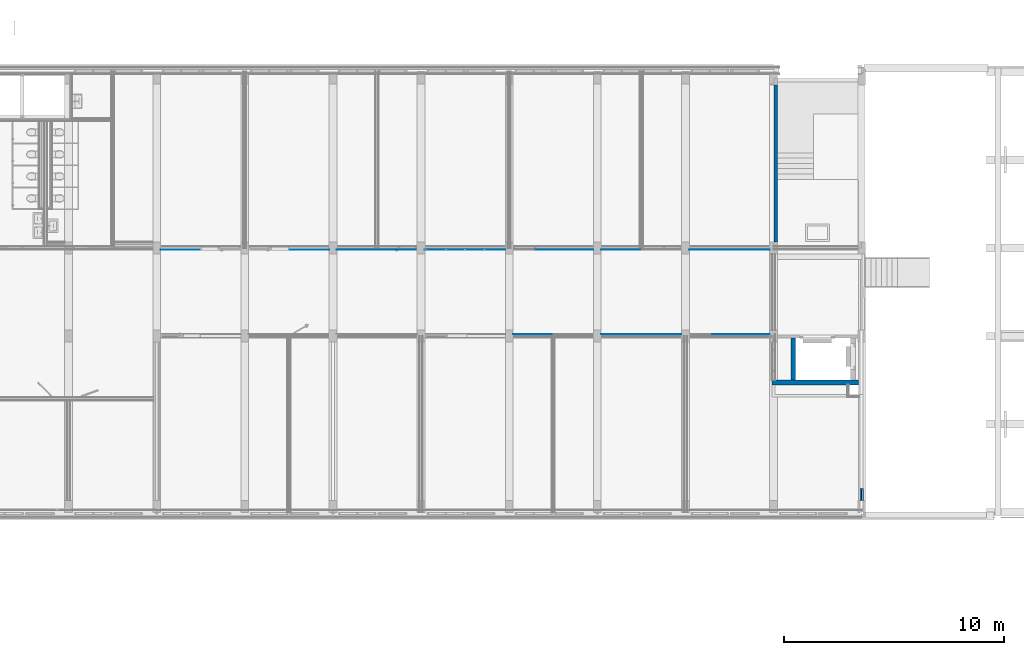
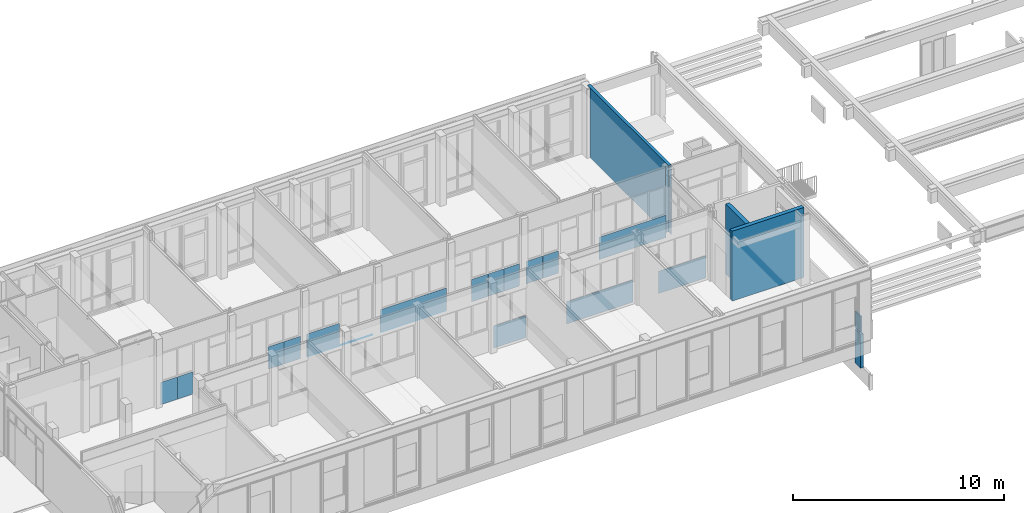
# One storey, part 16 of 54: 21 walls, 1 opening.
"""IFC2X3 building model written with IfcOpenShell, lengths in millimetres."""

from ifc_helpers import new_model, entity, si_unit, converted_unit, derived_unit, money_unit, direction, frame, origin_with_axes, place, context, subcontext, project, spatial, open_shell, faceted_brep, surface_model, material, type_object, element, save


model = new_model("IFC2X3")

# Units and contexts
model_context = context("Model", 3, precision=0.01, world=origin_with_axes(), true_north=direction((0.0, 1.0)))
body_context = subcontext(model_context, "Body", "Model", "MODEL_VIEW")
ifc_project = project(units=[si_unit("LENGTHUNIT", "METRE", prefix="MILLI"), si_unit("AREAUNIT", "SQUARE_METRE"), si_unit("VOLUMEUNIT", "CUBIC_METRE"), converted_unit("PLANEANGLEUNIT", "DEGREE", entity("IfcPlaneAngleMeasure", 0.0174532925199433), si_unit("PLANEANGLEUNIT", "RADIAN"), dimensions=[0, 0, 0, 0, 0, 0, 0]), money_unit("EUR"), converted_unit("TIMEUNIT", "Year", entity("IfcTimeMeasure", 31557600.0), si_unit("TIMEUNIT", "SECOND"), dimensions=[0, 0, 1, 0, 0, 0, 0]), si_unit("MASSUNIT", "GRAM", prefix="KILO"), si_unit("THERMODYNAMICTEMPERATUREUNIT", "DEGREE_CELSIUS"), si_unit("LUMINOUSINTENSITYUNIT", "LUMEN"), si_unit("ENERGYUNIT", "JOULE", prefix="MEGA"), derived_unit("THERMALCONDUCTANCEUNIT", [(si_unit("POWERUNIT", "WATT"), 1), (si_unit("LENGTHUNIT", "METRE"), -1), (si_unit("THERMODYNAMICTEMPERATUREUNIT", "KELVIN"), -1)]), derived_unit("SPECIFICHEATCAPACITYUNIT", [(si_unit("ENERGYUNIT", "JOULE"), 1), (si_unit("MASSUNIT", "GRAM", prefix="KILO"), -1), (si_unit("THERMODYNAMICTEMPERATUREUNIT", "KELVIN"), -1)]), derived_unit("MASSDENSITYUNIT", [(si_unit("MASSUNIT", "GRAM", prefix="KILO"), 1), (si_unit("VOLUMEUNIT", "CUBIC_METRE"), -1)])], contexts=[model_context])

# Site, building, storey
site_placement = place(None, origin_with_axes())
site = spatial("IfcSite", under=ifc_project, at=site_placement, Name="<site naam>", CompositionType="ELEMENT")
building_placement = place(site_placement, origin_with_axes())
building = spatial("IfcBuilding", under=site, at=building_placement, Name="<Naam gebouw>", CompositionType="ELEMENT")
storey_placement = place(building_placement, frame((0.0, 0.0, 8500.0), z_axis=(0.0, 0.0, 1.0), x_axis=(1.0, 0.0, 0.0)))
storey = spatial("IfcBuildingStorey", under=building, at=storey_placement, Name="02 2e verdieping", CompositionType="ELEMENT", Elevation=8500.0)

# Wall
ifc_material_1 = material(Name="beton_gewapend C")
wall_type_1 = type_object("IfcWallType", Name="beton 160 160", PredefinedType="NOTDEFINED")
wall_1_placement = place(storey_placement, frame((48015.07785426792, 19685.91067811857, 0.0), z_axis=(0.0, 0.0, 1.0), x_axis=(0.0, -1.0, 0.0)))
element("IfcWall", 1, at=wall_1_placement, inside=storey, type_object=wall_type_1, material=ifc_material_1, Name="22_Binnenwand_beton", context=body_context, shape_type="Brep", body=[
    faceted_brep([(7685.910678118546, 159.9221457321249, 0.0), (7410.910678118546, 159.9221457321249, 0.0), (7410.910678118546, 0.0, 0.0), (274.9999999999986, 0.0, 0.0), (274.9999999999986, 159.9221457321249, 0.0), (0.0, 159.9221457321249, 0.0), (0.0, 159.9999999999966, 0.0), (7685.910678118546, 159.9999999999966, 0.0), (7410.910678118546, 159.9221457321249, 3990.0), (7685.910678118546, 159.9221457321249, 3990.0), (7410.910678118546, 0.0, 3990.0), (7685.910678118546, 0.0, 3990.0), (7685.910678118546, 0.0, 4050.000014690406), (0.0, 0.0, 4050.000014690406), (0.0, 0.0, 3990.0), (274.9999999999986, 0.0, 3990.0), (274.9999999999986, 159.9221457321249, 3990.0), (0.0, 159.9221457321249, 3990.0), (0.0, 160.0000000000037, 4050.000014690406), (7685.910678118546, 159.9999999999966, 4050.000014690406)], [[[0, 1, 2, 3, 4, 5, 6, 7]], [[8, 1, 0, 9]], [[10, 2, 1, 8]], [[2, 10, 11, 12, 13, 14, 15, 3]], [[16, 4, 3, 15]], [[16, 17, 5, 4]], [[5, 17, 14, 13, 18, 6]], [[19, 7, 6, 18]], [[11, 9, 0, 7, 19, 12]], [[8, 9, 11, 10]], [[18, 13, 12, 19]], [[15, 14, 17, 16]]]),
])

# Wall, opening
wall_2_placement = place(storey_placement, frame((52000.00000000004, 1080.585761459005, -2105.0), z_axis=(0.0, 0.0, 1.0), x_axis=(0.0, -1.0, 0.0)))
wall_2 = element("IfcWall", 2, at=wall_2_placement, inside=storey, type_object=wall_type_1, material=ifc_material_1, Name="22_Binnenwand_beton", context=body_context, shape_type="Brep", body=[
    faceted_brep([(530.5857614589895, -79.9999999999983, 2987.500000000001), (530.5857614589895, -4.999999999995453, 2987.500000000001), (0.0, -4.999999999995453, 2987.500000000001), (0.0, -79.9999999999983, 2987.500000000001), (530.5857614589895, -79.9999999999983, 2075.000000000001), (530.5857614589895, -4.999999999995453, 2075.0000075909), (0.0, -4.999999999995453, 2075.000007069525), (0.0, -79.9999999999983, 2075.000000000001)], [[[0, 1, 2, 3]], [[4, 5, 1, 0]], [[5, 6, 2, 1]], [[3, 2, 6, 7]], [[0, 3, 7, 4]], [[7, 6, 5, 4]]]),
    faceted_brep([(0.0, -79.9999999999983, 0.0), (0.0, -79.9999999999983, 1955.000000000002), (0.0, 79.9999999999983, 1955.000000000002), (0.0, 79.9999999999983, 0.0), (530.5857614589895, -79.9999999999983, 0.0), (530.5857614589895, -79.9999999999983, 1955.000000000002), (530.5857614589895, 79.9999999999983, 1955.000000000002), (530.5857614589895, 79.9999999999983, 0.0)], [[[0, 1, 2, 3]], [[4, 5, 1, 0]], [[5, 6, 2, 1]], [[3, 2, 6, 7]], [[0, 3, 7, 4]], [[7, 6, 5, 4]]]),
])
opening_placement = place(wall_2_placement, frame((-6044.414244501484, 0.0, 0.0), z_axis=(0.0, 0.0, 1.0), x_axis=(1.0, 0.0, 0.0)))
element("IfcOpeningElement", 3, at=opening_placement, cuts=wall_2, Name="22_39-Gx_305", context=body_context, shape_type="Brep", body=[
    faceted_brep([(-599.9999999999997, -80.99999999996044, 2100.0), (-599.9999999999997, -80.99999999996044, 0.0), (599.9999999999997, -80.99999999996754, 0.0), (599.9999999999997, -80.99999999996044, 2100.0), (-599.9999999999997, 81.0000000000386, 2100.0), (-599.9999999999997, 81.0000000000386, 0.0), (599.9999999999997, 81.00000000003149, 0.0), (599.9999999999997, 81.0000000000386, 2100.0)], [[[0, 1, 2, 3]], [[4, 5, 1, 0]], [[5, 6, 2, 1]], [[6, 7, 3, 2]], [[7, 4, 0, 3]], [[6, 5, 4, 7]]]),
])

# Walls
ifc_material_2 = material(Name="kalkzandsteen")
wall_type_2 = type_object("IfcWallType", Name="kalkzandsteen 214", PredefinedType="NOTDEFINED")
wall_3_placement = place(storey_placement, frame((49000.00000000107, 6004.99999853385, 0.0), z_axis=(0.0, 0.0, 1.0), x_axis=(0.0, 1.0, 0.0)))
element("IfcWall", 4, at=wall_3_placement, inside=storey, type_object=wall_type_2, material=ifc_material_2, Name="22_Binnenwand_kalkzandsteen", context=body_context, shape_type="Brep", body=[
    faceted_brep([(1900.0, 0.0, 4049.999999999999), (1900.0, 213.9999999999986, 4049.999999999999), (0.0, 213.9999999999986, 4049.999999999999), (0.0, 0.0, 4049.999999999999), (1900.0, 0.0, 0.0), (1900.0, 213.9999999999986, 0.0), (0.0, 213.9999999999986, 0.0), (0.0, 0.0, 0.0)], [[[0, 1, 2, 3]], [[1, 0, 4, 5]], [[1, 5, 6, 2]], [[7, 3, 2, 6]], [[4, 0, 3, 7]], [[5, 4, 7, 6]]]),
])
wall_4_placement = place(storey_placement, frame((48000.00000000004, 6004.99999853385, 0.0), z_axis=(0.0, 0.0, 1.0), x_axis=(1.0, 0.0, 0.0)))
element("IfcWall", 5, at=wall_4_placement, inside=storey, type_object=wall_type_2, material=ifc_material_2, Name="22_Binnenwand_kalkzandsteen", context=body_context, shape_type="Brep", body=[
    faceted_brep([(-75.00000000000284, -213.9999999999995, 4049.999999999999), (3864.999999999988, -213.9999999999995, 4049.999999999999), (3864.999999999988, 0.0, 4049.999999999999), (-75.00000000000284, 0.0, 4049.999999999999), (-75.00000000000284, -214.0000000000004, 0.0), (3864.999999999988, -213.9999999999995, 0.0), (3864.999999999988, 0.0, 0.0), (-75.00000000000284, 0.0, 0.0)], [[[0, 1, 2, 3]], [[4, 5, 1, 0]], [[2, 1, 5, 6]], [[3, 2, 6, 7]], [[4, 0, 3, 7]], [[7, 6, 5, 4]]]),
])
ifc_material_3 = material(Name="ALG - BUITENAFWERKING")
wall_type_3 = type_object("IfcWallType", Name="ALG - BUITENAFWERKING 10", PredefinedType="NOTDEFINED")
wall_5_placement = place(storey_placement, frame((32242.99996298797, 11925.00000000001, 3.000000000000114), z_axis=(0.0, 0.0, 1.0), x_axis=(1.0, 0.0, 0.0)))
element("IfcWall", 6, at=wall_5_placement, inside=storey, type_object=wall_type_3, material=ifc_material_3, Name="42_Binnenwand_ALG", context=body_context, shape_type="SurfaceModel", body=[
    surface_model("IfcShellBasedSurfaceModel", [(0.0, -9.999999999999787, 0.0), (3514.000000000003, -9.999999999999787, 0.0), (3514.000000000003, 0.0, 0.0), (0.0, 0.0, 0.0)], [open_shell([[[0, 1, 2, 3]]])]),
])
wall_6_placement = place(storey_placement, frame((40179.34597927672, 11915.00000000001, 4.999999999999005), z_axis=(0.0, 0.0, 1.0), x_axis=(1.0, 0.0, 0.0)))
element("IfcWall", 7, at=wall_6_placement, inside=storey, type_object=wall_type_3, material=ifc_material_3, Name="42_Binnenwand_ALG", context=body_context, shape_type="Brep", body=[
    faceted_brep([(0.0, 0.0, 1292.000000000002), (907.7890083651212, 0.0, 1292.000000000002), (907.7890083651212, 9.999999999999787, 1292.000000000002), (0.0, 9.999999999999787, 1292.000000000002), (0.0, 0.0, 0.0), (907.7890083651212, 0.0, 0.0), (907.7890083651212, 9.999999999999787, 0.0), (0.0, 9.999999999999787, 0.0)], [[[0, 1, 2, 3]], [[4, 5, 1, 0]], [[2, 1, 5, 6]], [[3, 2, 6, 7]], [[4, 0, 3, 7]], [[7, 6, 5, 4]]]),
])
wall_7_placement = place(storey_placement, frame((28242.99996298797, 11925.00000000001, 3.000000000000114), z_axis=(0.0, 0.0, 1.0), x_axis=(1.0, 0.0, 0.0)))
element("IfcWall", 8, at=wall_7_placement, inside=storey, type_object=wall_type_3, material=ifc_material_3, Name="42_Binnenwand_ALG", context=body_context, shape_type="SurfaceModel", body=[
    surface_model("IfcShellBasedSurfaceModel", [(0.0, -9.999999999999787, 0.0), (3514.000000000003, -9.999999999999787, 0.0), (3514.000000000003, 0.0, 0.0), (0.0, 0.0, 0.0)], [open_shell([[[0, 1, 2, 3]]])]),
])
wall_8_placement = place(storey_placement, frame((41091.13498764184, 11915.00000000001, 4.999999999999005), z_axis=(0.0, 0.0, 1.0), x_axis=(1.0, 0.0, 0.0)))
element("IfcWall", 9, at=wall_8_placement, inside=storey, type_object=wall_type_3, material=ifc_material_3, Name="42_Binnenwand_ALG", context=body_context, shape_type="Brep", body=[
    faceted_brep([(0.0, 0.0, 1292.000000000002), (850.0000000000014, 0.0, 1292.000000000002), (850.0000000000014, 9.999999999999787, 1292.000000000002), (0.0, 9.999999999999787, 1292.000000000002), (0.0, 0.0, 0.0), (850.0000000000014, 0.0, 0.0), (850.0000000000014, 9.999999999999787, 0.0), (0.0, 9.999999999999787, 0.0)], [[[0, 1, 2, 3]], [[4, 5, 1, 0]], [[2, 1, 5, 6]], [[3, 2, 6, 7]], [[4, 0, 3, 7]], [[7, 6, 5, 4]]]),
])
wall_9_placement = place(storey_placement, frame((44179.34597927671, 11915.00000000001, 4.999999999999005), z_axis=(0.0, 0.0, 1.0), x_axis=(1.0, 0.0, 0.0)))
element("IfcWall", 10, at=wall_9_placement, inside=storey, type_object=wall_type_3, material=ifc_material_3, Name="42_Binnenwand_ALG", context=body_context, shape_type="Brep", body=[
    faceted_brep([(0.0, 0.0, 1292.000000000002), (3645.587924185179, 0.0, 1292.000000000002), (3645.587924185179, 9.999999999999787, 1292.000000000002), (0.0, 9.999999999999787, 1292.000000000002), (0.0, 0.0, 0.0), (3645.587924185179, 0.0, 0.0), (3645.587924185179, 9.999999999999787, 0.0), (0.0, 9.999999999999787, 0.0)], [[[0, 1, 2, 3]], [[4, 5, 1, 0]], [[2, 1, 5, 6]], [[3, 2, 6, 7]], [[4, 0, 3, 7]], [[7, 6, 5, 4]]]),
])
for number, where, z_axis, x_axis, name in (
    (11, (38108.28868578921, 11915.00000000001, 4.999999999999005), (0.0, 0.0, 1.0), (1.0, 0.0, 0.0), "42_Binnenwand_ALG"),
    (12, (38958.28868578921, 11915.00000000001, 4.999999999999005), (0.0, 0.0, 1.0), (1.0, 0.0, 0.0), "42_Binnenwand_ALG"),
):
    element("IfcWall", number, at=place(storey_placement, frame(where, z_axis=z_axis, x_axis=x_axis)), inside=storey, type_object=wall_type_3, material=ifc_material_3, Name=name, context=body_context, shape_type="Brep", body=[
        faceted_brep([(0.0, 0.0, 1292.000000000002), (850.0000000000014, 0.0, 1292.000000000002), (850.0000000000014, 9.999999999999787, 1292.000000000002), (0.0, 9.999999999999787, 1292.000000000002), (0.0, 0.0, 0.0), (850.0000000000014, 0.0, 0.0), (850.0000000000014, 9.999999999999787, 0.0), (0.0, 9.999999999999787, 0.0)], [[[0, 1, 2, 3]], [[4, 5, 1, 0]], [[2, 1, 5, 6]], [[3, 2, 6, 7]], [[4, 0, 3, 7]], [[7, 6, 5, 4]]]),
    ])
wall_10_placement = place(storey_placement, frame((32175.00000000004, 11915.00000000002, 4.999999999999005), z_axis=(0.0, 0.0, 1.0), x_axis=(1.0, 0.0, 0.0)))
element("IfcWall", 13, at=wall_10_placement, inside=storey, type_object=wall_type_3, material=ifc_material_3, Name="42_Binnenwand_ALG", context=body_context, shape_type="Brep", body=[
    faceted_brep([(0.0, 0.0, 1292.000000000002), (3649.933903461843, 0.0, 1292.000000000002), (3649.933903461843, 9.999999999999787, 1292.000000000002), (0.0, 9.999999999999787, 1292.000000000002), (0.0, 0.0, 0.0), (3649.933903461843, 0.0, 0.0), (3649.933903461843, 9.999999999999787, 0.0), (0.0, 9.999999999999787, 0.0)], [[[0, 1, 2, 3]], [[4, 5, 1, 0]], [[2, 1, 5, 6]], [[3, 2, 6, 7]], [[4, 0, 3, 7]], [[7, 6, 5, 4]]]),
])
wall_11_placement = place(storey_placement, frame((37196.49967742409, 11915.00000000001, 4.999999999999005), z_axis=(0.0, 0.0, 1.0), x_axis=(1.0, 0.0, 0.0)))
element("IfcWall", 14, at=wall_11_placement, inside=storey, type_object=wall_type_3, material=ifc_material_3, Name="42_Binnenwand_ALG", context=body_context, shape_type="Brep", body=[
    faceted_brep([(0.0, 0.0, 1292.000000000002), (907.7890083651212, 0.0, 1292.000000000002), (907.7890083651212, 9.999999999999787, 1292.000000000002), (0.0, 9.999999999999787, 1292.000000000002), (0.0, 0.0, 0.0), (907.7890083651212, 0.0, 0.0), (907.7890083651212, 9.999999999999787, 0.0), (0.0, 9.999999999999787, 0.0)], [[[0, 1, 2, 3]], [[4, 5, 1, 0]], [[2, 1, 5, 6]], [[3, 2, 6, 7]], [[4, 0, 3, 7]], [[7, 6, 5, 4]]]),
])
wall_12_placement = place(storey_placement, frame((28175.00000000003, 11915.00000000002, 4.999999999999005), z_axis=(0.0, 0.0, 1.0), x_axis=(1.0, 0.0, 0.0)))
element("IfcWall", 15, at=wall_12_placement, inside=storey, type_object=wall_type_3, material=ifc_material_3, Name="42_Binnenwand_ALG", context=body_context, shape_type="Brep", body=[
    faceted_brep([(0.0, 0.0, 1292.000000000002), (1775.453881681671, 0.0, 1292.000000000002), (1775.453881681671, 9.999999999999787, 1292.000000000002), (0.0, 9.999999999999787, 1292.000000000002), (0.0, 0.0, 0.0), (1775.453881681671, 0.0, 0.0), (1775.453881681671, 9.999999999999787, 0.0), (0.0, 9.999999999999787, 0.0)], [[[0, 1, 2, 3]], [[4, 5, 1, 0]], [[2, 1, 5, 6]], [[3, 2, 6, 7]], [[4, 0, 3, 7]], [[7, 6, 5, 4]]]),
])
wall_13_placement = place(storey_placement, frame((20175.00000000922, 11915.00000000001, 7.999999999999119), z_axis=(0.0, 0.0, 1.0), x_axis=(1.0, 0.0, 0.0)))
element("IfcWall", 16, at=wall_13_placement, inside=storey, type_object=wall_type_3, material=ifc_material_3, Name="42_Binnenwand_ALG", context=body_context, shape_type="Brep", body=[
    faceted_brep([(0.0, 0.0, 1292.000000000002), (919.8153780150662, 0.0, 1292.000000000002), (919.8153780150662, 9.999999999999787, 1292.000000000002), (0.0, 9.999999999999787, 1292.000000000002), (0.0, 0.0, 0.0), (919.8153780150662, 0.0, 0.0), (919.8153780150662, 9.999999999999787, 0.0), (0.0, 9.999999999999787, 0.0)], [[[0, 1, 2, 3]], [[4, 5, 1, 0]], [[2, 1, 5, 6]], [[3, 2, 6, 7]], [[4, 0, 3, 7]], [[7, 6, 5, 4]]]),
])
wall_14_placement = place(storey_placement, frame((26042.77778009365, 11915.00000000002, 4.999999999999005), z_axis=(0.0, 0.0, 1.0), x_axis=(1.0, 0.0, 0.0)))
element("IfcWall", 17, at=wall_14_placement, inside=storey, type_object=wall_type_3, material=ifc_material_3, Name="42_Binnenwand_ALG", context=body_context, shape_type="Brep", body=[
    faceted_brep([(0.0, 0.0, 1292.000000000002), (874.7163848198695, 0.0, 1292.000000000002), (874.7163848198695, 9.999999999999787, 1292.000000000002), (0.0, 9.999999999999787, 1292.000000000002), (0.0, 0.0, 0.0), (874.7163848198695, 0.0, 0.0), (874.7163848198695, 9.999999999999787, 0.0), (0.0, 9.999999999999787, 0.0)], [[[0, 1, 2, 3]], [[4, 5, 1, 0]], [[2, 1, 5, 6]], [[3, 2, 6, 7]], [[4, 0, 3, 7]], [[7, 6, 5, 4]]]),
])
wall_15_placement = place(storey_placement, frame((26921.49416491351, 11915.00000000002, 4.999999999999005), z_axis=(0.0, 0.0, 1.0), x_axis=(1.0, 0.0, 0.0)))
element("IfcWall", 18, at=wall_15_placement, inside=storey, type_object=wall_type_3, material=ifc_material_3, Name="42_Binnenwand_ALG", context=body_context, shape_type="Brep", body=[
    faceted_brep([(0.0, 0.0, 1292.000000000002), (903.505835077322, 0.0, 1292.000000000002), (903.505835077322, 9.999999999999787, 1292.000000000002), (0.0, 9.999999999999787, 1292.000000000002), (0.0, 0.0, 0.0), (903.505835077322, 0.0, 0.0), (903.505835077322, 9.999999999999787, 0.0), (0.0, 9.999999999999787, 0.0)], [[[0, 1, 2, 3]], [[4, 5, 1, 0]], [[2, 1, 5, 6]], [[3, 2, 6, 7]], [[4, 0, 3, 7]], [[7, 6, 5, 4]]]),
])
wall_16_placement = place(storey_placement, frame((40175.00000000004, 8075.000000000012, 5.421610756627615), z_axis=(0.0, 0.0, 1.0), x_axis=(1.0, 0.0, 0.0)))
element("IfcWall", 19, at=wall_16_placement, inside=storey, type_object=wall_type_3, material=ifc_material_3, Name="42_Binnenwand_ALG", context=body_context, shape_type="Brep", body=[
    faceted_brep([(0.0, 0.0, 1292.000000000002), (3646.000000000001, 0.0, 1292.000000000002), (3646.000000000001, 9.999999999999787, 1292.000000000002), (0.0, 9.999999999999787, 1292.000000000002), (0.0, 0.0, 0.0), (3646.000000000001, 0.0, 0.0), (3646.000000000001, 9.999999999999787, 0.0), (0.0, 9.999999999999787, 0.0)], [[[0, 1, 2, 3]], [[4, 5, 1, 0]], [[2, 1, 5, 6]], [[3, 2, 6, 7]], [[4, 0, 3, 7]], [[7, 6, 5, 4]]]),
])
wall_17_placement = place(storey_placement, frame((36175.00000000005, 8075.000000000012, 5.421610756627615), z_axis=(0.0, 0.0, 1.0), x_axis=(1.0, 0.0, 0.0)))
element("IfcWall", 20, at=wall_17_placement, inside=storey, type_object=wall_type_3, material=ifc_material_3, Name="42_Binnenwand_ALG", context=body_context, shape_type="Brep", body=[
    faceted_brep([(0.0, 0.0, 1292.000000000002), (1766.134987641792, 0.0, 1292.000000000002), (1766.134987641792, 9.999999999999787, 1292.000000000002), (0.0, 9.999999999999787, 1292.000000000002), (0.0, 0.0, 0.0), (1766.134987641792, 0.0, 0.0), (1766.134987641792, 9.999999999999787, 0.0), (0.0, 9.999999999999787, 0.0)], [[[0, 1, 2, 3]], [[4, 5, 1, 0]], [[2, 1, 5, 6]], [[3, 2, 6, 7]], [[4, 0, 3, 7]], [[7, 6, 5, 4]]]),
])
wall_18_placement = place(storey_placement, frame((45209.0000000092, 8075.000000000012, 5.421610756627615), z_axis=(0.0, 0.0, 1.0), x_axis=(1.0, 0.0, 0.0)))
element("IfcWall", 21, at=wall_18_placement, inside=storey, type_object=wall_type_3, material=ifc_material_3, Name="42_Binnenwand_ALG", context=body_context, shape_type="Brep", body=[
    faceted_brep([(0.0, 0.0, 1292.000000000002), (2611.999999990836, 0.0, 1292.000000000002), (2611.999999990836, 9.999999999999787, 1292.000000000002), (0.0, 9.999999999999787, 1292.000000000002), (0.0, 0.0, 0.0), (2611.999999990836, 0.0, 0.0), (2611.999999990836, 9.999999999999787, 0.0), (0.0, 9.999999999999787, 0.0)], [[[0, 1, 2, 3]], [[4, 5, 1, 0]], [[2, 1, 5, 6]], [[3, 2, 6, 7]], [[4, 0, 3, 7]], [[7, 6, 5, 4]]]),
])
wall_19_placement = place(storey_placement, frame((21098.81537802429, 11915.00000000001, 7.999999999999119), z_axis=(0.0, 0.0, 1.0), x_axis=(1.0, 0.0, 0.0)))
element("IfcWall", 22, at=wall_19_placement, inside=storey, type_object=wall_type_3, material=ifc_material_3, Name="42_Binnenwand_ALG", context=body_context, shape_type="Brep", body=[
    faceted_brep([(0.0, 0.0, 1292.000000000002), (850.302908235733, 0.0, 1292.000000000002), (850.302908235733, 9.999999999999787, 1292.000000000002), (0.0, 9.999999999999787, 1292.000000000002), (0.0, 0.0, 0.0), (850.302908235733, 0.0, 0.0), (850.302908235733, 9.999999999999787, 0.0), (0.0, 9.999999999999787, 0.0)], [[[0, 1, 2, 3]], [[4, 5, 1, 0]], [[2, 1, 5, 6]], [[3, 2, 6, 7]], [[4, 0, 3, 7]], [[7, 6, 5, 4]]]),
])

save(model, "model.ifc")
